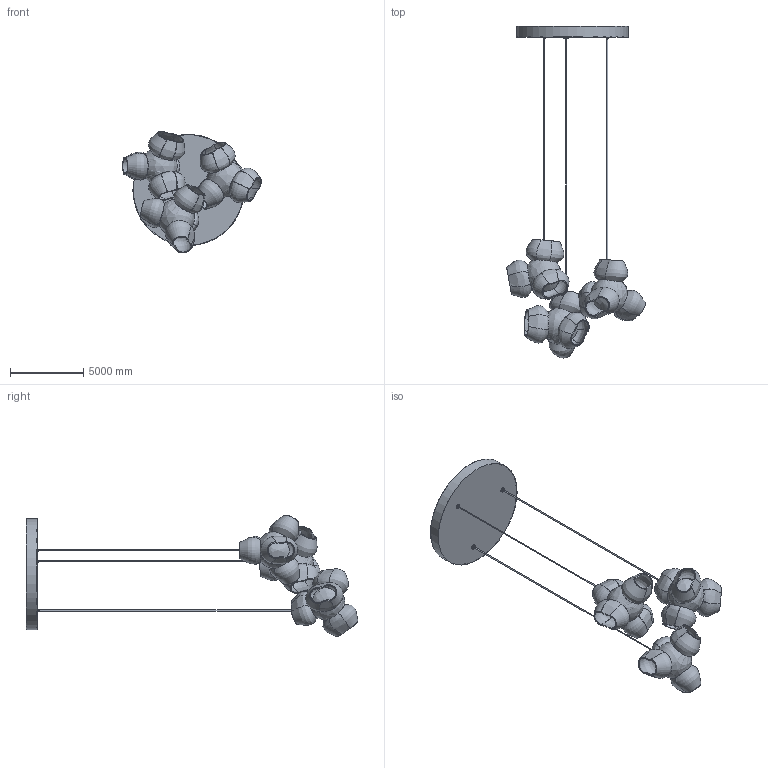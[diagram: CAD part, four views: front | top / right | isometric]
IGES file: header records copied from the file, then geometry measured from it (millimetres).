
Global section: file name: Process Glass Pendant Light-3heads; native system: AutoCAD 2022 - 简体中文 (Simplified Chinese),62HAuto; preprocessor: desk Translation Framework DWG producer (atf_dwg_producer); organization: unknown; date: 20250819.175754; units: inch
Bounding box: 9493.84 x 22720.27 x 8312.69 mm (x, y, z)
Volume: 13079714060.5 mm3; surface area: 537883650.5 mm2
Topology: 10 solids, 25 shells, 290 faces, 798 edges, 568 vertices
Faces by surface type: bspline 290
